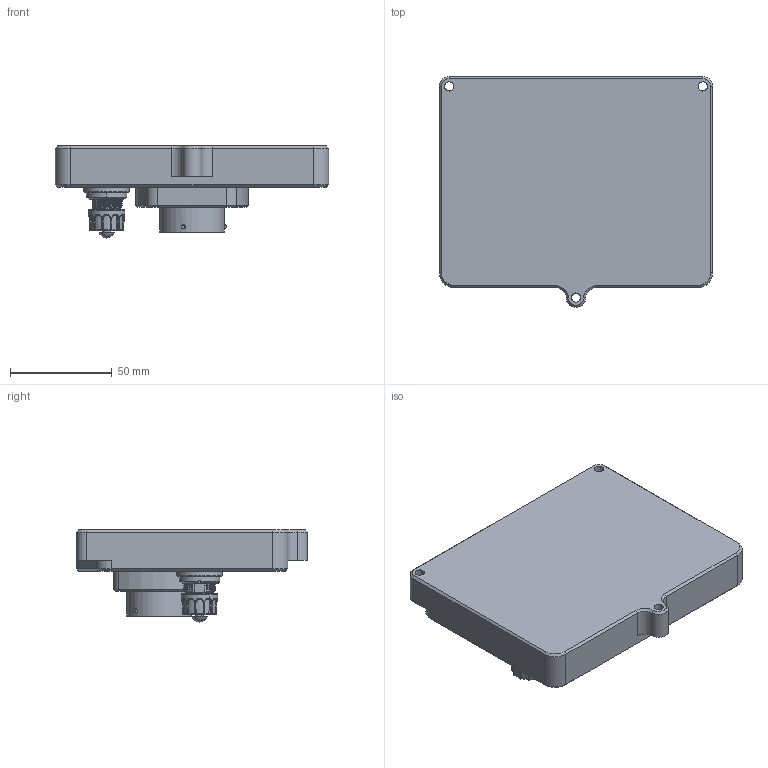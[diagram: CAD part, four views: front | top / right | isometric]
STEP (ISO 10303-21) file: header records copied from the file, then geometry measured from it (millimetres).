
FILE_DESCRIPTION(/* description */ ('Alibre Inc.'),/* implementation_level */ '2;1');
FILE_NAME(/* name */ 'export0',/* time_stamp */ '2015-12-15T13:42:48+11:00',/* author */ (''),/* organization */ (''),/* preprocessor_version */ 'ST-DEVELOPER v14',/* originating_system */ 'Alibre',/* authorisation */ '');
FILE_SCHEMA (('AUTOMOTIVE_DESIGN'));
Length unit declared in the file: centimetre
Bounding box: 134.5 x 113.5 x 45.3 mm (x, y, z)
Volume: 293966 mm3; surface area: 55640.9 mm2
Topology: 28 solids, 28 shells, 1652 faces, 6675 edges, 5147 vertices
Faces by surface type: plane 864, cylinder 518, bspline 149, cone 46, torus 36, revolution 23, sphere 16
Full cylindrical faces by diameter (mm): 0.8 x79, 2 x3, 3.2 x2, 4.5 x3, 22.5 x1, 31.75 x1
Entity records: 106409 total; most frequent: CARTESIAN_POINT 49305, ORIENTED_EDGE 13114, DIRECTION 10996, EDGE_CURVE 6557, VERTEX_POINT 5144, AXIS2_PLACEMENT_3D 4631, CIRCLE 3124, VECTOR 2608
